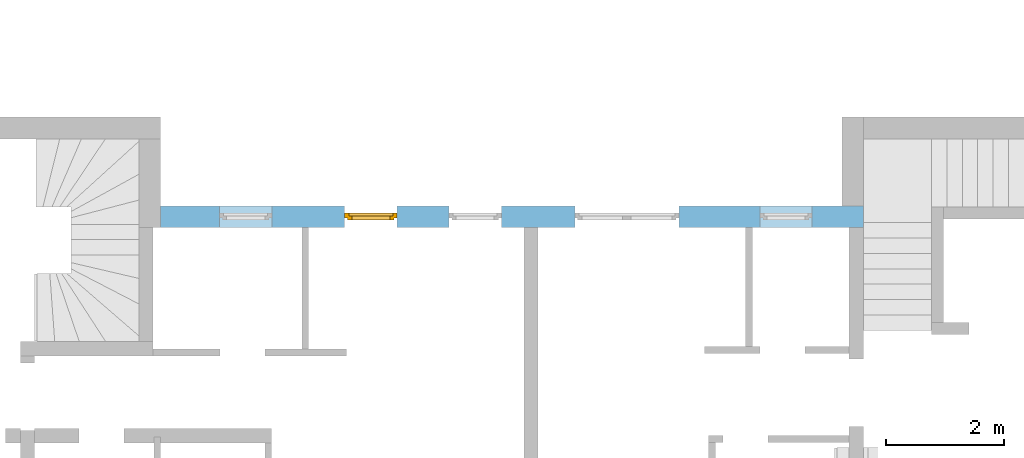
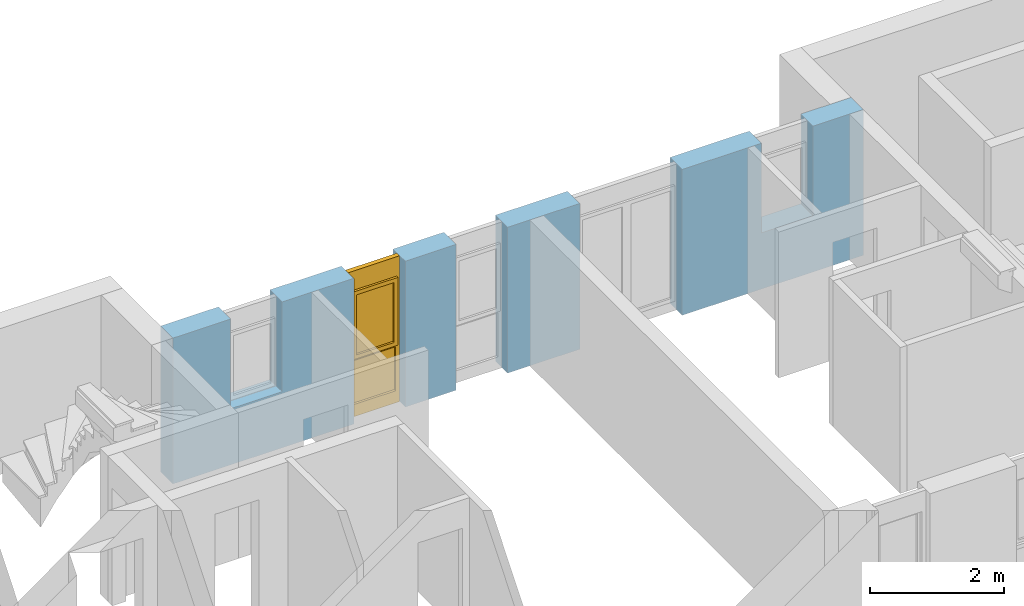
# One storey, part 33 of 42: 1 window, 5 openings, plus 1 element that does not belong to this part.
"""IFC2X3 building model written with IfcOpenShell, lengths in millimetres."""

from ifc_helpers import new_model, entity, si_unit, converted_unit, frame, frame_2d, origin, origin_with_axes, place, context, subcontext, project, spatial, rectangle, extrude, faceted_brep, material, layer, layer_set, layer_usage, type_object, element, fill, save


model = new_model("IFC2X3")

# Units and contexts
model_context = context("Model", 3, precision=1e-05, world=origin())
body_context = subcontext(model_context, "Body", "Model", "MODEL_VIEW")
ifc_project = project(units=[si_unit("LENGTHUNIT", "METRE", prefix="MILLI"), converted_unit("PLANEANGLEUNIT", "DEGREE", entity("IfcPlaneAngleMeasure", 0.0174532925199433), si_unit("PLANEANGLEUNIT", "RADIAN"), dimensions=[0, 0, 0, 0, 0, 0, 0]), si_unit("AREAUNIT", "SQUARE_METRE"), si_unit("VOLUMEUNIT", "CUBIC_METRE")], contexts=[model_context])

# Building, storey
building_placement = place(None, origin())
building = spatial("IfcBuilding", under=ifc_project, at=building_placement, Name="Gebäude", CompositionType="ELEMENT")
storey_placement = place(building_placement, frame((0.0, 0.0, 2730.0), z_axis=(0.0, 0.0, 1.0), x_axis=(1.0, 0.0, 0.0)))
storey = spatial("IfcBuildingStorey", under=building, at=storey_placement, Name="OG.- Grundriss", CompositionType="ELEMENT", Elevation=2730.0)

# Wall, openings, window
ifc_material_1 = material(Name="Poroton")
ifc_layer = layer(ifc_material_1, 365.0000000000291)
ifc_layer_set = layer_set([ifc_layer])
ifc_layer_usage = layer_usage(ifc_layer_set, "AXIS2", "POSITIVE", 0.0)
wall_placement = place(storey_placement, frame((176237.7928067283, 134774.8877324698, 0.0), z_axis=(0.0, 0.0, 1.0), x_axis=(-1.0, 0.0, 0.0)))
wall = element("IfcWallStandardCase", 1, at=wall_placement, inside=storey, material=ifc_layer_usage, Name="<Unnamed Element>", context=body_context, shape_type="SweptSolid", body=[
    extrude(rectangle(XDim=11869.99999999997, YDim=365.0000000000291, at=frame_2d((5934.999999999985, 182.5000000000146), x_axis=(1.0, 0.0))), origin_with_axes(), (0.0, 0.0, 1.0), 2650.0),
])
opening_1_placement = place(wall_placement, frame((7875.000000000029, 0.0, 0.0), z_axis=(0.0, 1.0, 0.0), x_axis=(0.0, 0.0, 1.0)))
opening_1 = element("IfcOpeningElement", 2, at=opening_1_placement, cuts=wall, Name="Fensteröffnung", ObjectType="Opening", context=body_context, shape_type="SweptSolid", body=[
    extrude(rectangle(XDim=2650.0, YDim=885.0, at=frame_2d((1325.0, 442.5), x_axis=(1.0, 0.0))), origin_with_axes(), (0.0, 0.0, 1.0), 365.0000000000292),
])
opening_2_placement = place(wall_placement, frame((6115.000000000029, 0.0, 0.0), z_axis=(0.0, 1.0, 0.0), x_axis=(0.0, 0.0, 1.0)))
element("IfcOpeningElement", 3, at=opening_2_placement, cuts=wall, Name="Fensteröffnung", ObjectType="Opening", context=body_context, shape_type="SweptSolid", body=[
    extrude(rectangle(XDim=2650.0, YDim=885.0, at=frame_2d((1325.0, 442.5), x_axis=(1.0, 0.0))), origin_with_axes(), (0.0, 0.0, 1.0), 365.0000000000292),
])
opening_3_placement = place(wall_placement, frame((9990.00000000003, 0.0, 1020.0), z_axis=(0.0, 1.0, 0.0), x_axis=(0.0, 0.0, 1.0)))
element("IfcOpeningElement", 4, at=opening_3_placement, cuts=wall, Name="Fensteröffnung", ObjectType="Opening", context=body_context, shape_type="SweptSolid", body=[
    extrude(rectangle(XDim=1630.0, YDim=885.0, at=frame_2d((815.0, 442.5), x_axis=(1.0, 0.0))), origin_with_axes(), (0.0, 0.0, 1.0), 365.0000000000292),
])
opening_4_placement = place(wall_placement, frame((3115.000000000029, 0.0, 0.0), z_axis=(0.0, 1.0, 0.0), x_axis=(0.0, 0.0, 1.0)))
element("IfcOpeningElement", 5, at=opening_4_placement, cuts=wall, Name="Fensteröffnung", ObjectType="Opening", context=body_context, shape_type="SweptSolid", body=[
    extrude(rectangle(XDim=2650.0, YDim=1760.0, at=frame_2d((1325.0, 880.0), x_axis=(1.0, 0.0))), origin_with_axes(), (0.0, 0.0, 1.0), 365.0000000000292),
])
opening_5_placement = place(wall_placement, frame((865.0000000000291, 0.0, 1020.0), z_axis=(0.0, 1.0, 0.0), x_axis=(0.0, 0.0, 1.0)))
element("IfcOpeningElement", 6, at=opening_5_placement, cuts=wall, Name="Fensteröffnung", ObjectType="Opening", context=body_context, shape_type="SweptSolid", body=[
    extrude(rectangle(XDim=1630.0, YDim=885.0, at=frame_2d((815.0, 442.5), x_axis=(1.0, 0.0))), origin_with_axes(), (0.0, 0.0, 1.0), 365.0000000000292),
])
ifc_material_2 = material()
window_style = type_object("IfcWindowStyle", Name="Fenster", ConstructionType="NOTDEFINED", OperationType="USERDEFINED", ParameterTakesPrecedence=False, Sizeable=False)
window_placement = place(opening_1_placement, frame((0.0, 0.0, 0.0), z_axis=(1.0, 0.0, 0.0), x_axis=(0.0, 1.0, 0.0)))
window = element("IfcWindow", 7, at=window_placement, inside=storey, type_object=window_style, material=ifc_material_2, Name="Fenster", OverallHeight=2650.0, OverallWidth=885.0, context=body_context, shape_type="Brep", body=[
    faceted_brep([(9.797174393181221e-15, 200.0000000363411, 2650.0), (9.797174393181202e-15, 200.000000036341, -2.449293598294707e-15), (69.99999999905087, 200.000000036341, -2.449293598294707e-15), (69.99999999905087, 200.0000000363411, 2650.0), (0.0, 120.0000000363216, 2.449293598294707e-15), (1.914360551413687e-29, 120.0000000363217, 2650.0), (69.99999999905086, 120.0000000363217, 2650.0), (69.99999999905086, 120.0000000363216, 2.449293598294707e-15), (9.797174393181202e-15, 200.000000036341, -2.449293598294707e-15), (9.797174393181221e-15, 200.0000000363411, 2650.0), (1.914360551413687e-29, 120.0000000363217, 2650.0), (0.0, 120.0000000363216, 2.449293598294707e-15), (69.99999999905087, 200.000000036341, -2.449293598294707e-15), (9.797174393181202e-15, 200.000000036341, -2.449293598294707e-15), (0.0, 120.0000000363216, 2.449293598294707e-15), (69.99999999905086, 120.0000000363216, 2.449293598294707e-15), (69.99999999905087, 200.0000000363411, 2650.0), (69.99999999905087, 200.000000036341, -2.449293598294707e-15), (69.99999999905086, 120.0000000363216, 2.449293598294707e-15), (69.99999999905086, 120.0000000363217, 2650.0), (9.797174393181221e-15, 200.0000000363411, 2650.0), (69.99999999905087, 200.0000000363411, 2650.0), (69.99999999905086, 120.0000000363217, 2650.0), (1.914360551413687e-29, 120.0000000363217, 2650.0)], [[[0, 1, 2, 3]], [[4, 5, 6, 7]], [[8, 9, 10, 11]], [[12, 13, 14, 15]], [[16, 17, 18, 19]], [[20, 21, 22, 23]]], orient=[[False], [False], [False], [False], [False], [False]]),
    faceted_brep([(815.0000000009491, 200.000000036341, 2650.0), (815.0000000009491, 200.0000000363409, -2.449293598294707e-15), (884.9999999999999, 200.0000000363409, -2.449293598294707e-15), (884.9999999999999, 200.000000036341, 2650.0), (815.0000000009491, 120.0000000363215, 2.449293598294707e-15), (815.0000000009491, 120.0000000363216, 2650.0), (884.9999999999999, 120.0000000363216, 2650.0), (884.9999999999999, 120.0000000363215, 2.449293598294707e-15), (815.0000000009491, 200.0000000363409, -2.449293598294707e-15), (815.0000000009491, 200.000000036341, 2650.0), (815.0000000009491, 120.0000000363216, 2650.0), (815.0000000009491, 120.0000000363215, 2.449293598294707e-15), (884.9999999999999, 200.0000000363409, -2.449293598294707e-15), (815.0000000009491, 200.0000000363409, -2.449293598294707e-15), (815.0000000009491, 120.0000000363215, 2.449293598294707e-15), (884.9999999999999, 120.0000000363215, 2.449293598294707e-15), (884.9999999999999, 200.000000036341, 2650.0), (884.9999999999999, 200.0000000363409, -2.449293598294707e-15), (884.9999999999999, 120.0000000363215, 2.449293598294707e-15), (884.9999999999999, 120.0000000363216, 2650.0), (815.0000000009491, 200.000000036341, 2650.0), (884.9999999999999, 200.000000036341, 2650.0), (884.9999999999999, 120.0000000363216, 2650.0), (815.0000000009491, 120.0000000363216, 2650.0)], [[[0, 1, 2, 3]], [[4, 5, 6, 7]], [[8, 9, 10, 11]], [[12, 13, 14, 15]], [[16, 17, 18, 19]], [[20, 21, 22, 23]]], orient=[[False], [False], [False], [False], [False], [False]]),
    faceted_brep([(69.99999999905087, 200.000000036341, 220.0), (69.99999999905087, 200.000000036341, -2.449293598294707e-15), (815.0000000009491, 200.0000000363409, -2.449293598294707e-15), (815.0000000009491, 200.0000000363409, 220.0), (69.99999999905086, 120.0000000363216, 2.449293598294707e-15), (69.99999999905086, 120.0000000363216, 220.0), (815.0000000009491, 120.0000000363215, 220.0), (815.0000000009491, 120.0000000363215, 2.449293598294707e-15), (69.99999999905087, 200.000000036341, -2.449293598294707e-15), (69.99999999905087, 200.000000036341, 220.0), (69.99999999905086, 120.0000000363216, 220.0), (69.99999999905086, 120.0000000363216, 2.449293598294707e-15), (815.0000000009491, 200.0000000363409, -2.449293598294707e-15), (69.99999999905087, 200.000000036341, -2.449293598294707e-15), (69.99999999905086, 120.0000000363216, 2.449293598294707e-15), (815.0000000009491, 120.0000000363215, 2.449293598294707e-15), (815.0000000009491, 200.0000000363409, 220.0), (815.0000000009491, 200.0000000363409, -2.449293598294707e-15), (815.0000000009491, 120.0000000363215, 2.449293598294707e-15), (815.0000000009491, 120.0000000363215, 220.0), (69.99999999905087, 200.000000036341, 220.0), (815.0000000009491, 200.0000000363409, 220.0), (815.0000000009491, 120.0000000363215, 220.0), (69.99999999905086, 120.0000000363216, 220.0)], [[[0, 1, 2, 3]], [[4, 5, 6, 7]], [[8, 9, 10, 11]], [[12, 13, 14, 15]], [[16, 17, 18, 19]], [[20, 21, 22, 23]]], orient=[[False], [False], [False], [False], [False], [False]]),
    faceted_brep([(69.99999999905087, 200.0000000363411, 2650.0), (69.99999999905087, 200.0000000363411, 2280.0), (815.0000000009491, 200.000000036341, 2280.0), (815.0000000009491, 200.0000000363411, 2650.0), (69.99999999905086, 120.0000000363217, 2280.0), (69.99999999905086, 120.0000000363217, 2650.0), (815.0000000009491, 120.0000000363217, 2650.0), (815.0000000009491, 120.0000000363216, 2280.0), (69.99999999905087, 200.0000000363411, 2280.0), (69.99999999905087, 200.0000000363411, 2650.0), (69.99999999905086, 120.0000000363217, 2650.0), (69.99999999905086, 120.0000000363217, 2280.0), (815.0000000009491, 200.000000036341, 2280.0), (69.99999999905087, 200.0000000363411, 2280.0), (69.99999999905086, 120.0000000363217, 2280.0), (815.0000000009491, 120.0000000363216, 2280.0), (815.0000000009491, 200.0000000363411, 2650.0), (815.0000000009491, 200.000000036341, 2280.0), (815.0000000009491, 120.0000000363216, 2280.0), (815.0000000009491, 120.0000000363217, 2650.0), (69.99999999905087, 200.0000000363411, 2650.0), (815.0000000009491, 200.0000000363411, 2650.0), (815.0000000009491, 120.0000000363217, 2650.0), (69.99999999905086, 120.0000000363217, 2650.0)], [[[0, 1, 2, 3]], [[4, 5, 6, 7]], [[8, 9, 10, 11]], [[12, 13, 14, 15]], [[16, 17, 18, 19]], [[20, 21, 22, 23]]], orient=[[False], [False], [False], [False], [False], [False]]),
    faceted_brep([(69.99999999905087, 200.000000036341, 1090.0), (69.99999999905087, 200.000000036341, 1020.0), (815.0000000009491, 200.0000000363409, 1020.0), (815.0000000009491, 200.0000000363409, 1090.0), (69.99999999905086, 120.0000000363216, 1020.0), (69.99999999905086, 120.0000000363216, 1090.0), (815.0000000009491, 120.0000000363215, 1090.0), (815.0000000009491, 120.0000000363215, 1020.0), (69.99999999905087, 200.000000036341, 1020.0), (69.99999999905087, 200.000000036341, 1090.0), (69.99999999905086, 120.0000000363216, 1090.0), (69.99999999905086, 120.0000000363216, 1020.0), (815.0000000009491, 200.0000000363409, 1020.0), (69.99999999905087, 200.000000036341, 1020.0), (69.99999999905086, 120.0000000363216, 1020.0), (815.0000000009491, 120.0000000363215, 1020.0), (815.0000000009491, 200.0000000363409, 1090.0), (815.0000000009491, 200.0000000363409, 1020.0), (815.0000000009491, 120.0000000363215, 1020.0), (815.0000000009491, 120.0000000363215, 1090.0), (69.99999999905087, 200.000000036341, 1090.0), (815.0000000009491, 200.0000000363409, 1090.0), (815.0000000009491, 120.0000000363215, 1090.0), (69.99999999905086, 120.0000000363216, 1090.0)], [[[0, 1, 2, 3]], [[4, 5, 6, 7]], [[8, 9, 10, 11]], [[12, 13, 14, 15]], [[16, 17, 18, 19]], [[20, 21, 22, 23]]], orient=[[False], [False], [False], [False], [False], [False]]),
    faceted_brep([(69.99999999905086, 160.0000000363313, 220.0), (815.0000000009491, 160.0000000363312, 220.0), (815.0000000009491, 160.0000000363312, 1020.0), (69.99999999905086, 160.0000000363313, 1020.0), (69.99999999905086, 159.0000000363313, 220.0), (69.99999999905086, 159.0000000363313, 1020.0), (815.0000000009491, 159.0000000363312, 1020.0), (815.0000000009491, 159.0000000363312, 220.0), (69.99999999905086, 160.0000000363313, 220.0), (69.99999999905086, 159.0000000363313, 220.0), (815.0000000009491, 159.0000000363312, 220.0), (815.0000000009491, 160.0000000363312, 220.0), (815.0000000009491, 160.0000000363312, 220.0), (815.0000000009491, 159.0000000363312, 220.0), (815.0000000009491, 159.0000000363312, 1020.0), (815.0000000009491, 160.0000000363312, 1020.0), (815.0000000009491, 160.0000000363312, 1020.0), (815.0000000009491, 159.0000000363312, 1020.0), (69.99999999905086, 159.0000000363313, 1020.0), (69.99999999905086, 160.0000000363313, 1020.0), (69.99999999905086, 160.0000000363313, 1020.0), (69.99999999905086, 159.0000000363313, 1020.0), (69.99999999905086, 159.0000000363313, 220.0), (69.99999999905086, 160.0000000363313, 220.0)], [[[0, 1, 2, 3]], [[4, 5, 6, 7]], [[8, 9, 10, 11]], [[12, 13, 14, 15]], [[16, 17, 18, 19]], [[20, 21, 22, 23]]], orient=[[False], [False], [False], [False], [False], [False]]),
    faceted_brep([(49.99999999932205, 240.0000000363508, 2300.0), (49.99999999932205, 240.0000000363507, 1070.0), (119.9999999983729, 240.0000000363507, 1070.0), (119.9999999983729, 240.0000000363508, 2300.0), (49.99999999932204, 170.0000000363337, 1070.0), (49.99999999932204, 170.0000000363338, 2300.0), (119.9999999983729, 170.0000000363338, 2300.0), (119.9999999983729, 170.0000000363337, 1070.0), (49.99999999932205, 240.0000000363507, 1070.0), (49.99999999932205, 240.0000000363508, 2300.0), (49.99999999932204, 170.0000000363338, 2300.0), (49.99999999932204, 170.0000000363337, 1070.0), (119.9999999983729, 240.0000000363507, 1070.0), (49.99999999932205, 240.0000000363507, 1070.0), (49.99999999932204, 170.0000000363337, 1070.0), (119.9999999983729, 170.0000000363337, 1070.0), (119.9999999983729, 240.0000000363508, 2300.0), (119.9999999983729, 240.0000000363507, 1070.0), (119.9999999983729, 170.0000000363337, 1070.0), (119.9999999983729, 170.0000000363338, 2300.0), (49.99999999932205, 240.0000000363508, 2300.0), (119.9999999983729, 240.0000000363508, 2300.0), (119.9999999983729, 170.0000000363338, 2300.0), (49.99999999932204, 170.0000000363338, 2300.0)], [[[0, 1, 2, 3]], [[4, 5, 6, 7]], [[8, 9, 10, 11]], [[12, 13, 14, 15]], [[16, 17, 18, 19]], [[20, 21, 22, 23]]], orient=[[False], [False], [False], [False], [False], [False]]),
    faceted_brep([(765.000000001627, 240.0000000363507, 2300.0), (765.000000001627, 240.0000000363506, 1070.0), (835.0000000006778, 240.0000000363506, 1070.0), (835.0000000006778, 240.0000000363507, 2300.0), (765.000000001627, 170.0000000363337, 1070.0), (765.000000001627, 170.0000000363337, 2300.0), (835.0000000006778, 170.0000000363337, 2300.0), (835.0000000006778, 170.0000000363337, 1070.0), (765.000000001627, 240.0000000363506, 1070.0), (765.000000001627, 240.0000000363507, 2300.0), (765.000000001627, 170.0000000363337, 2300.0), (765.000000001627, 170.0000000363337, 1070.0), (835.0000000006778, 240.0000000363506, 1070.0), (765.000000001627, 240.0000000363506, 1070.0), (765.000000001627, 170.0000000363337, 1070.0), (835.0000000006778, 170.0000000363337, 1070.0), (835.0000000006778, 240.0000000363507, 2300.0), (835.0000000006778, 240.0000000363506, 1070.0), (835.0000000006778, 170.0000000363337, 1070.0), (835.0000000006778, 170.0000000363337, 2300.0), (765.000000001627, 240.0000000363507, 2300.0), (835.0000000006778, 240.0000000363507, 2300.0), (835.0000000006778, 170.0000000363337, 2300.0), (765.000000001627, 170.0000000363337, 2300.0)], [[[0, 1, 2, 3]], [[4, 5, 6, 7]], [[8, 9, 10, 11]], [[12, 13, 14, 15]], [[16, 17, 18, 19]], [[20, 21, 22, 23]]], orient=[[False], [False], [False], [False], [False], [False]]),
    faceted_brep([(119.9999999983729, 240.0000000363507, 1140.0), (119.9999999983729, 240.0000000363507, 1070.0), (765.000000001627, 240.0000000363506, 1070.0), (765.000000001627, 240.0000000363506, 1140.0), (119.9999999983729, 170.0000000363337, 1070.0), (119.9999999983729, 170.0000000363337, 1140.0), (765.000000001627, 170.0000000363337, 1140.0), (765.000000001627, 170.0000000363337, 1070.0), (119.9999999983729, 240.0000000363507, 1070.0), (119.9999999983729, 240.0000000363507, 1140.0), (119.9999999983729, 170.0000000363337, 1140.0), (119.9999999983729, 170.0000000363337, 1070.0), (765.000000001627, 240.0000000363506, 1070.0), (119.9999999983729, 240.0000000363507, 1070.0), (119.9999999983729, 170.0000000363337, 1070.0), (765.000000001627, 170.0000000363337, 1070.0), (765.000000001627, 240.0000000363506, 1140.0), (765.000000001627, 240.0000000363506, 1070.0), (765.000000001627, 170.0000000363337, 1070.0), (765.000000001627, 170.0000000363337, 1140.0), (119.9999999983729, 240.0000000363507, 1140.0), (765.000000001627, 240.0000000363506, 1140.0), (765.000000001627, 170.0000000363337, 1140.0), (119.9999999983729, 170.0000000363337, 1140.0)], [[[0, 1, 2, 3]], [[4, 5, 6, 7]], [[8, 9, 10, 11]], [[12, 13, 14, 15]], [[16, 17, 18, 19]], [[20, 21, 22, 23]]], orient=[[False], [False], [False], [False], [False], [False]]),
    faceted_brep([(119.9999999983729, 240.0000000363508, 2300.0), (119.9999999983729, 240.0000000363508, 2230.0), (765.000000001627, 240.0000000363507, 2230.0), (765.000000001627, 240.0000000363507, 2300.0), (119.9999999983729, 170.0000000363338, 2230.0), (119.9999999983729, 170.0000000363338, 2300.0), (765.000000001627, 170.0000000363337, 2300.0), (765.000000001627, 170.0000000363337, 2230.0), (119.9999999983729, 240.0000000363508, 2230.0), (119.9999999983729, 240.0000000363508, 2300.0), (119.9999999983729, 170.0000000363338, 2300.0), (119.9999999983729, 170.0000000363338, 2230.0), (765.000000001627, 240.0000000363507, 2230.0), (119.9999999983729, 240.0000000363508, 2230.0), (119.9999999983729, 170.0000000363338, 2230.0), (765.000000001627, 170.0000000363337, 2230.0), (765.000000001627, 240.0000000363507, 2300.0), (765.000000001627, 240.0000000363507, 2230.0), (765.000000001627, 170.0000000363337, 2230.0), (765.000000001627, 170.0000000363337, 2300.0), (119.9999999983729, 240.0000000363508, 2300.0), (765.000000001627, 240.0000000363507, 2300.0), (765.000000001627, 170.0000000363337, 2300.0), (119.9999999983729, 170.0000000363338, 2300.0)], [[[0, 1, 2, 3]], [[4, 5, 6, 7]], [[8, 9, 10, 11]], [[12, 13, 14, 15]], [[16, 17, 18, 19]], [[20, 21, 22, 23]]], orient=[[False], [False], [False], [False], [False], [False]]),
    faceted_brep([(119.9999999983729, 205.0000000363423, 1140.0), (765.000000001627, 205.0000000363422, 1140.0), (765.000000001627, 205.0000000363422, 2230.0), (119.9999999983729, 205.0000000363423, 2230.0), (119.9999999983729, 204.0000000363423, 1140.0), (119.9999999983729, 204.0000000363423, 2230.0), (765.000000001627, 204.0000000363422, 2230.0), (765.000000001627, 204.0000000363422, 1140.0), (119.9999999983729, 205.0000000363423, 1140.0), (119.9999999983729, 204.0000000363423, 1140.0), (765.000000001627, 204.0000000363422, 1140.0), (765.000000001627, 205.0000000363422, 1140.0), (765.000000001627, 205.0000000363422, 1140.0), (765.000000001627, 204.0000000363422, 1140.0), (765.000000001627, 204.0000000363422, 2230.0), (765.000000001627, 205.0000000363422, 2230.0), (765.000000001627, 205.0000000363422, 2230.0), (765.000000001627, 204.0000000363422, 2230.0), (119.9999999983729, 204.0000000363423, 2230.0), (119.9999999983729, 205.0000000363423, 2230.0), (119.9999999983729, 205.0000000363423, 2230.0), (119.9999999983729, 204.0000000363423, 2230.0), (119.9999999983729, 204.0000000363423, 1140.0), (119.9999999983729, 205.0000000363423, 1140.0)], [[[0, 1, 2, 3]], [[4, 5, 6, 7]], [[8, 9, 10, 11]], [[12, 13, 14, 15]], [[16, 17, 18, 19]], [[20, 21, 22, 23]]], orient=[[False], [False], [False], [False], [False], [False]]),
])
fill(opening_1, window)

save(model, "model.ifc")
